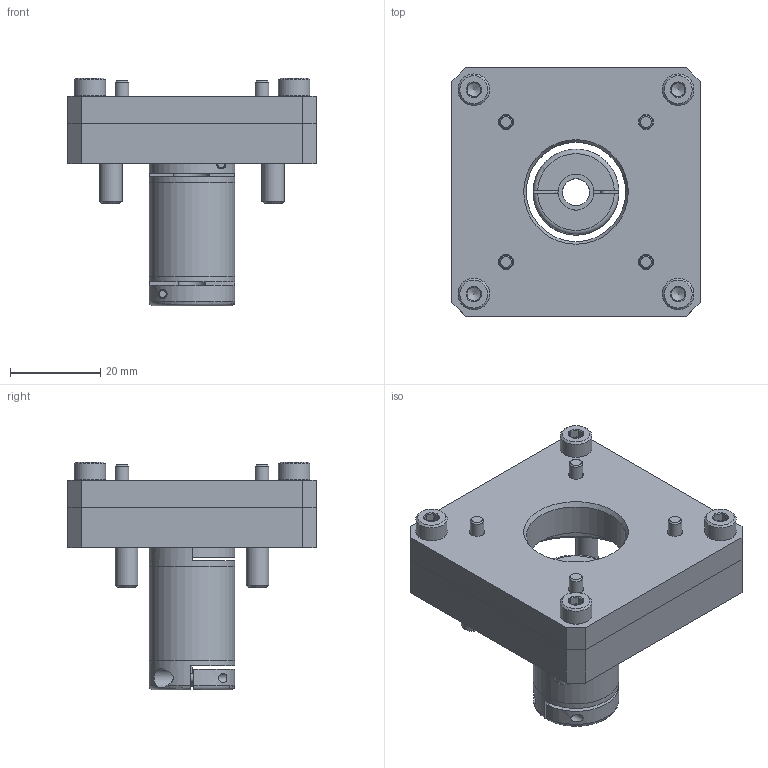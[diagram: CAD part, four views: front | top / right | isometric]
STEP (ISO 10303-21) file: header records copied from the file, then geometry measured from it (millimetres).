
FILE_DESCRIPTION(/* description */ ('Adapter KGH.-Adapter KGH.'),/* implementation_level */ '2;1');
FILE_NAME(/* name */ 'C:\ホームページ用データ\\X2\307E305A30533053306B\X0\\J08560.stp',/* time_stamp */ '2015-04-07T14:42:27+09:00',/* author */ ('jp4te01'),/* organization */ ('FESTO'),/* preprocessor_version */ 'ST-DEVELOPER v15.2',/* originating_system */ 'Autodesk Inventor 2014',/* authorisation */ '');
FILE_SCHEMA (('AUTOMOTIVE_DESIGN { 1 0 10303 214 3 1 1 }'));
Length unit declared in the file: centimetre
Products named in the file (8): 562668 EAMF-A-38A-42A(1A10); 735674 EAMF-A-38A-42A; DIN-912 - M4x12(F); DIN-912 - M5x12(F); 562668 EAMF-A-38A-42A; XGL2-19C-6x8; コピー版 JIS B 1176 - M3 x 6; J08560
Bounding box: 55 x 55 x 50.5 mm (x, y, z)
Volume: 41611.3 mm3; surface area: 24013.4 mm2
Topology: 17 solids, 17 shells, 479 faces, 1101 edges, 680 vertices
Faces by surface type: plane 272, cone 111, cylinder 86, torus 10
Full cylindrical faces by diameter (mm): 2 x4, 2.5 x2, 3 x4, 3.242 x4, 3.4 x4, 3.8 x2, 4 x4, 4.1 x2, 4.5 x4, 5 x4, 5.5 x8, 6 x5, 7 x4, 8 x1, 8.5 x4, 8.8 x1, 19 x3, 22 x1, 38 x1
Entity records: 7995 total; most frequent: CARTESIAN_POINT 1722, DIRECTION 1268, ORIENTED_EDGE 1126, EDGE_CURVE 563, AXIS2_PLACEMENT_3D 489, VERTEX_POINT 401, EDGE_LOOP 392, LINE 290
